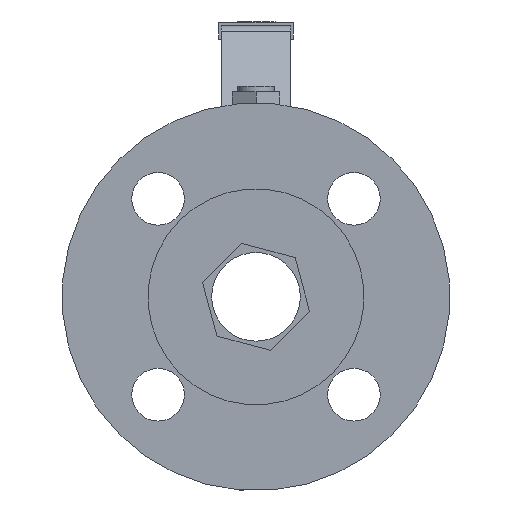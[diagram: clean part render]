
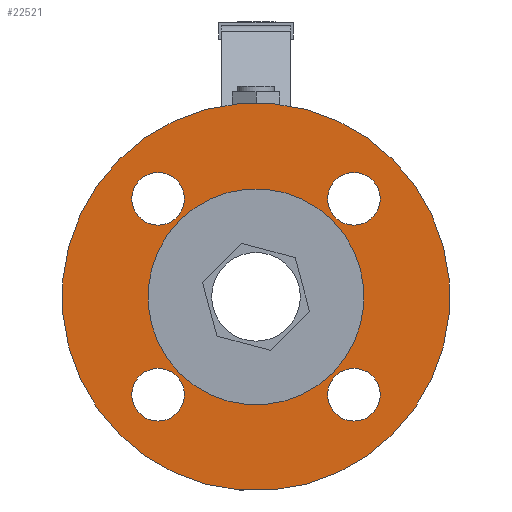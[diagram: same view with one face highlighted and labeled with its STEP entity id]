
A CAD part, left-side view. The second image highlights one B-rep face of the part: STEP entity #22521.
In plain terms, the highlighted planar face has unit normal (-1, 0, 0).
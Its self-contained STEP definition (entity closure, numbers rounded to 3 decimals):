
#22521=ADVANCED_FACE('',(#40044,#40046,#40048,#40050,#40052,#40054),#40056,.F.);
#40044=FACE_BOUND('',#40045,.T.);
#40045=EDGE_LOOP('',(#54533));
#40046=FACE_BOUND('',#40047,.T.);
#40047=EDGE_LOOP('',(#54534));
#40048=FACE_BOUND('',#40049,.T.);
#40049=EDGE_LOOP('',(#54535));
#40050=FACE_BOUND('',#40051,.T.);
#40051=EDGE_LOOP('',(#54536));
#40052=FACE_BOUND('',#40053,.T.);
#40053=EDGE_LOOP('',(#54537));
#40054=FACE_BOUND('',#40055,.T.);
#40055=EDGE_LOOP('',(#54538));
#40056=PLANE('',#40057);
#40057=AXIS2_PLACEMENT_3D('',#40058,#40059,#40060);
#40058=CARTESIAN_POINT('',(3631.729,1162.797,-61.796));
#40059=DIRECTION('',(1.,0.,0.));
#40060=DIRECTION('',(0.,0.,-1.));
#54533=ORIENTED_EDGE('',*,*,#61780,.T.);
#54534=ORIENTED_EDGE('',*,*,#61650,.T.);
#54535=ORIENTED_EDGE('',*,*,#61654,.T.);
#54536=ORIENTED_EDGE('',*,*,#61658,.T.);
#54537=ORIENTED_EDGE('',*,*,#61646,.T.);
#54538=ORIENTED_EDGE('',*,*,#61781,.F.);
#61646=EDGE_CURVE('',#73610,#73610,#73611,.T.);
#61650=EDGE_CURVE('',#73618,#73618,#73619,.T.);
#61654=EDGE_CURVE('',#73626,#73626,#73627,.T.);
#61658=EDGE_CURVE('',#73634,#73634,#73635,.T.);
#61780=EDGE_CURVE('',#73836,#73836,#73837,.T.);
#61781=EDGE_CURVE('',#73838,#73838,#73839,.T.);
#73610=VERTEX_POINT('',#99967);
#73611=CIRCLE('',#99968,9.5);
#73618=VERTEX_POINT('',#99987);
#73619=CIRCLE('',#99988,9.5);
#73626=VERTEX_POINT('',#100007);
#73627=CIRCLE('',#100008,9.5);
#73634=VERTEX_POINT('',#100027);
#73635=CIRCLE('',#100028,9.5);
#73836=VERTEX_POINT('',#101037);
#73837=CIRCLE('',#101038,70.);
#73838=VERTEX_POINT('',#101042);
#73839=CIRCLE('',#101043,39.);
#99967=CARTESIAN_POINT('',(3631.729,1171.59,-61.089));
#99968=AXIS2_PLACEMENT_3D('',#99969,#99970,#99971);
#99969=CARTESIAN_POINT('',(3631.729,1162.09,-61.089));
#99970=DIRECTION('',(1.,0.,0.));
#99971=DIRECTION('',(0.,1.,0.));
#99987=CARTESIAN_POINT('',(3631.729,1100.879,9.622));
#99988=AXIS2_PLACEMENT_3D('',#99989,#99990,#99991);
#99989=CARTESIAN_POINT('',(3631.729,1091.379,9.622));
#99990=DIRECTION('',(1.,0.,0.));
#99991=DIRECTION('',(0.,1.,0.));
#100007=CARTESIAN_POINT('',(3631.729,1100.879,-61.089));
#100008=AXIS2_PLACEMENT_3D('',#100009,#100010,#100011);
#100009=CARTESIAN_POINT('',(3631.729,1091.379,-61.089));
#100010=DIRECTION('',(1.,0.,0.));
#100011=DIRECTION('',(0.,1.,0.));
#100027=CARTESIAN_POINT('',(3631.729,1171.59,9.622));
#100028=AXIS2_PLACEMENT_3D('',#100029,#100030,#100031);
#100029=CARTESIAN_POINT('',(3631.729,1162.09,9.622));
#100030=DIRECTION('',(1.,0.,0.));
#100031=DIRECTION('',(0.,1.,0.));
#101037=CARTESIAN_POINT('',(3631.729,1176.232,-75.231));
#101038=AXIS2_PLACEMENT_3D('',#101039,#101040,#101041);
#101039=CARTESIAN_POINT('',(3631.729,1126.734,-25.734));
#101040=DIRECTION('',(-1.,0.,0.));
#101041=DIRECTION('',(0.,0.707,-0.707));
#101042=CARTESIAN_POINT('',(3631.729,1154.311,-53.311));
#101043=AXIS2_PLACEMENT_3D('',#101044,#101045,#101046);
#101044=CARTESIAN_POINT('',(3631.729,1126.734,-25.734));
#101045=DIRECTION('',(-1.,0.,0.));
#101046=DIRECTION('',(0.,0.707,-0.707));
